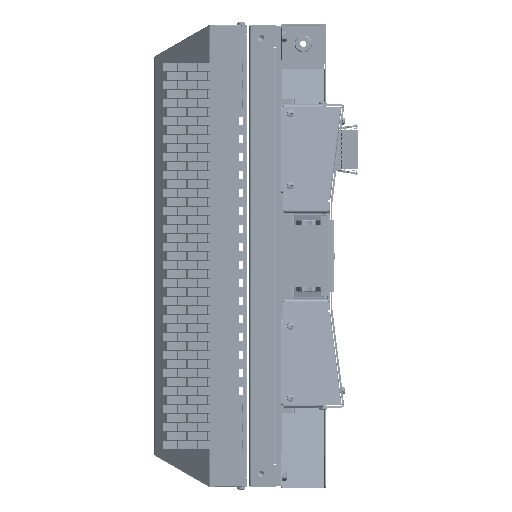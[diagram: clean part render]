
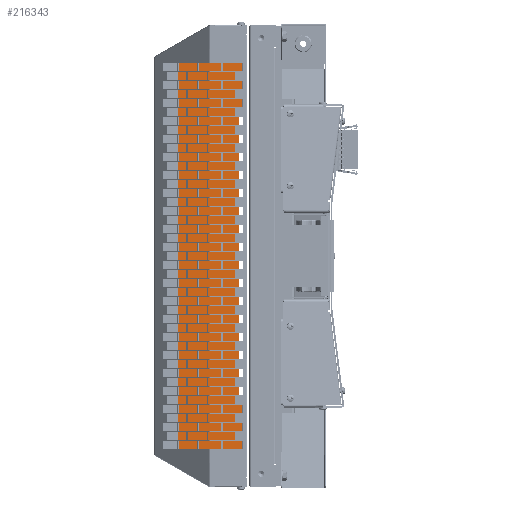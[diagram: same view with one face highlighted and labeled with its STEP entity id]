
A CAD part, left-side view. The second image highlights one B-rep face of the part: STEP entity #216343.
In plain terms, the highlighted planar face has unit normal (-1, 0, 0).
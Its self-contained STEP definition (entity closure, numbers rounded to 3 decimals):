
#164938=CARTESIAN_POINT('',(250.75,74.572,235.885));
#164940=DIRECTION('',(0.,0.,-1.));
#164941=VECTOR('',#164940,471.771);
#164942=CARTESIAN_POINT('',(250.75,74.572,235.885));
#164943=LINE('',#164942,#164941);
#164944=CARTESIAN_POINT('',(250.75,74.572,-235.885));
#165049=DIRECTION('',(0.,0.,1.));
#165050=VECTOR('',#165049,320.);
#165051=CARTESIAN_POINT('',(250.75,6.938,-160.));
#165052=LINE('',#165051,#165050);
#165057=DIRECTION('',(0.,1.,0.));
#165058=VECTOR('',#165057,2.938);
#165059=CARTESIAN_POINT('',(250.75,4.,-160.));
#165060=LINE('',#165059,#165058);
#165105=DIRECTION('',(0.,0.,1.));
#165106=VECTOR('',#165105,6.536);
#165107=CARTESIAN_POINT('',(250.75,-2.,-256.));
#165108=LINE('',#165107,#165106);
#165109=DIRECTION('',(0.,-1.,0.));
#165110=VECTOR('',#165109,41.464);
#165111=CARTESIAN_POINT('',(250.75,39.464,-256.));
#165112=LINE('',#165111,#165110);
#165121=DIRECTION('',(0.,-0.866,-0.5));
#165122=VECTOR('',#165121,6.928);
#165123=CARTESIAN_POINT('',(250.75,4.,-246.));
#165124=LINE('',#165123,#165122);
#165125=DIRECTION('',(0.,0.866,0.5));
#165126=VECTOR('',#165125,39.961);
#165127=CARTESIAN_POINT('',(250.75,39.964,-255.866));
#165128=LINE('',#165127,#165126);
#165129=DIRECTION('',(0.,-0.866,0.5));
#165130=VECTOR('',#165129,39.961);
#165131=CARTESIAN_POINT('',(250.75,74.572,235.885));
#165132=LINE('',#165131,#165130);
#165133=DIRECTION('',(0.,-0.966,0.259));
#165134=VECTOR('',#165133,0.518);
#165135=CARTESIAN_POINT('',(250.75,39.964,255.866));
#165136=LINE('',#165135,#165134);
#165137=DIRECTION('',(0.,-1.,0.));
#165138=VECTOR('',#165137,41.464);
#165139=CARTESIAN_POINT('',(250.75,39.464,256.));
#165140=LINE('',#165139,#165138);
#165141=DIRECTION('',(0.,0.866,-0.5));
#165142=VECTOR('',#165141,6.928);
#165143=CARTESIAN_POINT('',(250.75,-2.,249.464));
#165144=LINE('',#165143,#165142);
#165149=DIRECTION('',(0.,0.,1.));
#165150=VECTOR('',#165149,86.);
#165151=CARTESIAN_POINT('',(250.75,4.,-246.));
#165152=LINE('',#165151,#165150);
#165193=DIRECTION('',(0.,-0.966,-0.259));
#165194=VECTOR('',#165193,0.518);
#165195=CARTESIAN_POINT('',(250.75,39.964,-255.866));
#165196=LINE('',#165195,#165194);
#165217=DIRECTION('',(0.,0.,1.));
#165218=VECTOR('',#165217,6.536);
#165219=CARTESIAN_POINT('',(250.75,-2.,249.464));
#165220=LINE('',#165219,#165218);
#165261=DIRECTION('',(0.,-1.,0.));
#165262=VECTOR('',#165261,2.938);
#165263=CARTESIAN_POINT('',(250.75,6.938,160.));
#165264=LINE('',#165263,#165262);
#165269=DIRECTION('',(0.,0.,1.));
#165270=VECTOR('',#165269,86.);
#165271=CARTESIAN_POINT('',(250.75,4.,160.));
#165272=LINE('',#165271,#165270);
#179860=VERTEX_POINT('',#164944);
#179863=VERTEX_POINT('',#164938);
#179897=CARTESIAN_POINT('',(250.75,6.938,-160.));
#179898=VERTEX_POINT('',#179897);
#179899=CARTESIAN_POINT('',(250.75,6.938,160.));
#179900=VERTEX_POINT('',#179899);
#179901=CARTESIAN_POINT('',(250.75,4.,-160.));
#179902=VERTEX_POINT('',#179901);
#179909=CARTESIAN_POINT('',(250.75,4.,-246.));
#179910=VERTEX_POINT('',#179909);
#179913=CARTESIAN_POINT('',(250.75,-2.,-249.464));
#179914=VERTEX_POINT('',#179913);
#179915=CARTESIAN_POINT('',(250.75,-2.,-256.));
#179916=VERTEX_POINT('',#179915);
#179917=CARTESIAN_POINT('',(250.75,39.464,-256.));
#179918=VERTEX_POINT('',#179917);
#179919=CARTESIAN_POINT('',(250.75,39.964,-255.866));
#179920=VERTEX_POINT('',#179919);
#179921=CARTESIAN_POINT('',(250.75,39.964,255.866));
#179922=VERTEX_POINT('',#179921);
#179923=CARTESIAN_POINT('',(250.75,39.464,256.));
#179924=VERTEX_POINT('',#179923);
#179925=CARTESIAN_POINT('',(250.75,-2.,256.));
#179926=VERTEX_POINT('',#179925);
#179927=CARTESIAN_POINT('',(250.75,-2.,249.464));
#179928=VERTEX_POINT('',#179927);
#179929=CARTESIAN_POINT('',(250.75,4.,246.));
#179930=VERTEX_POINT('',#179929);
#179931=CARTESIAN_POINT('',(250.75,4.,160.));
#179932=VERTEX_POINT('',#179931);
#216310=CARTESIAN_POINT('',(250.75,0.,-257.));
#216311=DIRECTION('',(1.,0.,0.));
#216312=DIRECTION('',(0.,1.,0.));
#216313=AXIS2_PLACEMENT_3D('',#216310,#216311,#216312);
#216314=PLANE('',#216313);
#216315=ORIENTED_EDGE('',*,*,#216203,.F.);
#216316=ORIENTED_EDGE('',*,*,#216218,.F.);
#216318=ORIENTED_EDGE('',*,*,#216317,.F.);
#216319=ORIENTED_EDGE('',*,*,#216276,.T.);
#216320=ORIENTED_EDGE('',*,*,#216291,.F.);
#216321=ORIENTED_EDGE('',*,*,#216301,.F.);
#216323=ORIENTED_EDGE('',*,*,#216322,.F.);
#216325=ORIENTED_EDGE('',*,*,#216324,.T.);
#216326=ORIENTED_EDGE('',*,*,#216052,.F.);
#216328=ORIENTED_EDGE('',*,*,#216327,.T.);
#216330=ORIENTED_EDGE('',*,*,#216329,.T.);
#216332=ORIENTED_EDGE('',*,*,#216331,.T.);
#216334=ORIENTED_EDGE('',*,*,#216333,.F.);
#216336=ORIENTED_EDGE('',*,*,#216335,.T.);
#216338=ORIENTED_EDGE('',*,*,#216337,.F.);
#216340=ORIENTED_EDGE('',*,*,#216339,.F.);
#216341=EDGE_LOOP('',(#216315,#216316,#216318,#216319,#216320,#216321,#216323,
#216325,#216326,#216328,#216330,#216332,#216334,#216336,#216338,#216340));
#216342=FACE_OUTER_BOUND('',#216341,.F.);
#216343=ADVANCED_FACE('',(#216342),#216314,.F.);
#216052=EDGE_CURVE('',#179863,#179860,#164943,.T.);
#216203=EDGE_CURVE('',#179898,#179900,#165052,.T.);
#216218=EDGE_CURVE('',#179902,#179898,#165060,.T.);
#216276=EDGE_CURVE('',#179910,#179914,#165124,.T.);
#216291=EDGE_CURVE('',#179916,#179914,#165108,.T.);
#216301=EDGE_CURVE('',#179918,#179916,#165112,.T.);
#216317=EDGE_CURVE('',#179910,#179902,#165152,.T.);
#216322=EDGE_CURVE('',#179920,#179918,#165196,.T.);
#216324=EDGE_CURVE('',#179920,#179860,#165128,.T.);
#216327=EDGE_CURVE('',#179863,#179922,#165132,.T.);
#216329=EDGE_CURVE('',#179922,#179924,#165136,.T.);
#216331=EDGE_CURVE('',#179924,#179926,#165140,.T.);
#216333=EDGE_CURVE('',#179928,#179926,#165220,.T.);
#216335=EDGE_CURVE('',#179928,#179930,#165144,.T.);
#216337=EDGE_CURVE('',#179932,#179930,#165272,.T.);
#216339=EDGE_CURVE('',#179900,#179932,#165264,.T.);
